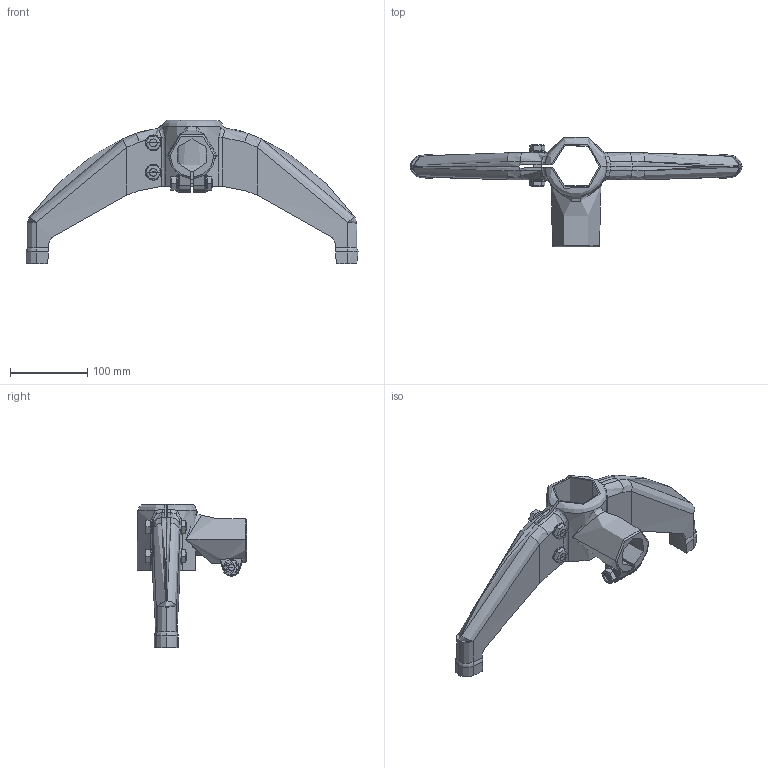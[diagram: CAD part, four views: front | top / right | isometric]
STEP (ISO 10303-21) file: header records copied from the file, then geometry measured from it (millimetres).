
FILE_DESCRIPTION (( 'STEP AP214' ), '1' );
FILE_NAME ('8310063NV.STEP', '2024-01-24T16:27:09', ( '' ), ( '' ), 'SwSTEP 2.0', 'SolidWorks 2022', '' );
FILE_SCHEMA (( 'AUTOMOTIVE_DESIGN' ));
Length unit declared in the file: millimetre
Products named in the file (1): 8310063NV
Bounding box: 428.98 x 141.64 x 185 mm (x, y, z)
Topology: 0 solids, 17 shells, 295 faces, 724 edges, 450 vertices
Faces by surface type: cylinder 85, plane 83, torus 71, bspline 33, cone 23
Full cylindrical faces by diameter (mm): 25.979 x1, 3000 x1
Entity records: 15875 total; most frequent: CARTESIAN_POINT 9167, ORIENTED_EDGE 1433, DIRECTION 1281, EDGE_CURVE 720, AXIS2_PLACEMENT_3D 567, VERTEX_POINT 451, EDGE_LOOP 324, CIRCLE 304
